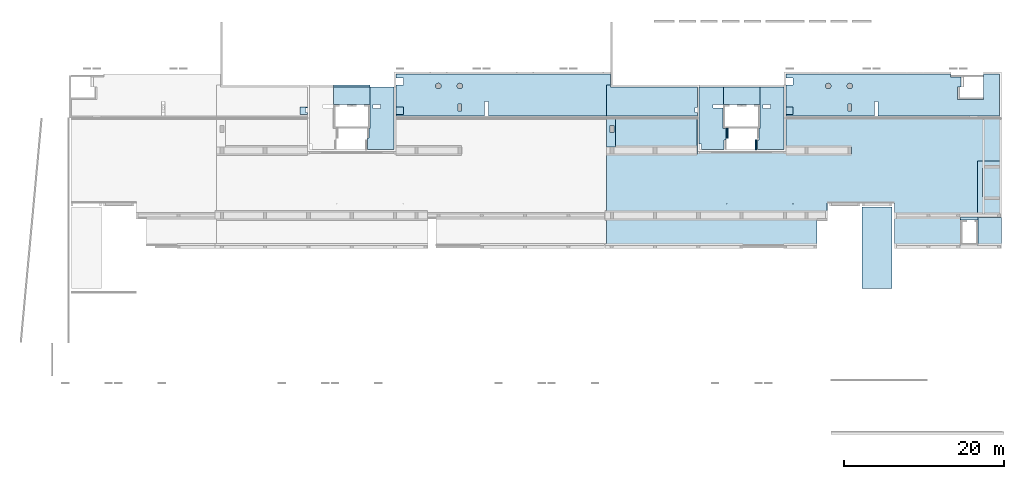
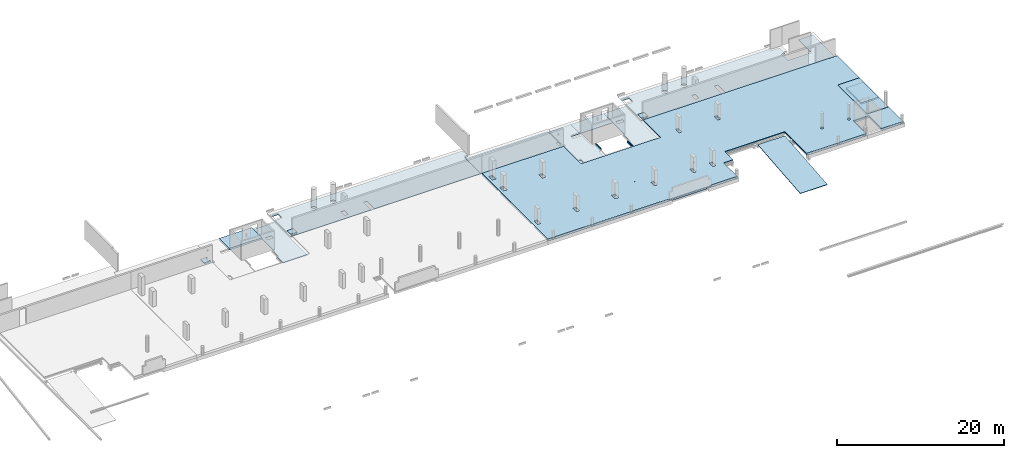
# One storey, part 5 of 10: 25 slabs, 27 openings.
"""IFC2X3 building model written with IfcOpenShell, lengths in millimetres."""

import ifcopenshell
import ifcopenshell.guid

model = None  # the IFC model being written
_history = None  # IfcOwnerHistory: only IFC2X3 demands one
_inside = {}  # id of a spatial element -> (the spatial element, [elements in it])
_under = {}  # id of a project, library or spatial element -> (it, [spatial elements below it])
_declared = {}  # id of a project -> (the project, [libraries it declares])
_typed = {}  # id of a type object -> (the type object, [elements of that type])
_made_of = {}  # id of a material, layer set ... -> (it, [elements and type objects made of it])


def new_model(schema):
    """Start an empty IFC model of exactly this schema.

    Asked for "IFC4X3", IfcOpenShell would pick the latest addendum, in which some entities
    have other attributes; the version numbers below select the first issue.
    IFC2X3 requires an IfcOwnerHistory on every rooted entity: one is made here for all.
    """
    global model, _history
    if schema == "IFC4X3":
        model = ifcopenshell.file(schema_version=(4, 3, 0, 0))
    else:
        model = ifcopenshell.file(schema=schema)
    _inside.clear()
    _under.clear()
    _declared.clear()
    _typed.clear()
    _made_of.clear()
    _history = None
    if model.schema == "IFC2X3":
        org = make("IfcOrganization", Name="unknown")
        user = make(
            "IfcPersonAndOrganization",
            ThePerson=make("IfcPerson", FamilyName="unknown"),
            TheOrganization=org,
        )
        app = make(
            "IfcApplication",
            ApplicationDeveloper=org,
            Version="unknown",
            ApplicationFullName="unknown",
            ApplicationIdentifier="unknown",
        )
        _history = make(
            "IfcOwnerHistory",
            OwningUser=user,
            OwningApplication=app,
            ChangeAction="ADDED",
            CreationDate=0,
        )
    return model


def make(cls, **values):
    """One entity of the class cls with the attributes given. An attribute that is None is left unset."""
    return model.create_entity(
        cls, **{name: value for name, value in values.items() if value is not None}
    )


def entity(cls, *values):
    """Any entity or typed value of the class cls, its attributes in the order of the schema. None: left unset."""
    e = model.create_entity(cls)
    for i, value in enumerate(values):
        if value is not None:
            e[i] = value
    return e


def rooted(cls, **values):
    """An entity with a GlobalId (a new one), such as an element, a storey or a relation."""
    return make(cls, GlobalId=ifcopenshell.guid.new(), OwnerHistory=_history, **values)


def si_unit(unit_type, name, prefix=None):
    """IfcSIUnit, for example si_unit("LENGTHUNIT", "METRE", prefix="MILLI")."""
    return make("IfcSIUnit", UnitType=unit_type, Prefix=prefix, Name=name)


def converted_unit(unit_type, name, factor, base, dimensions=None, offset=None):
    """IfcConversionBasedUnit, such as the inch: factor (a typed value) times the base unit."""
    return make(
        "IfcConversionBasedUnit"
        if offset is None
        else "IfcConversionBasedUnitWithOffset",
        ConversionOffset=offset,
        Dimensions=None
        if dimensions is None
        else entity("IfcDimensionalExponents", *dimensions),
        UnitType=unit_type,
        Name=name,
        ConversionFactor=make(
            "IfcMeasureWithUnit", ValueComponent=factor, UnitComponent=base
        ),
    )


def derived_unit(unit_type, elements):
    """IfcDerivedUnit: a product of units, each with its exponent."""
    return make(
        "IfcDerivedUnit",
        Elements=[
            make("IfcDerivedUnitElement", Unit=unit, Exponent=power)
            for unit, power in elements
        ],
        UnitType=unit_type,
    )


def assignment(units):
    """IfcUnitAssignment: the units of a project."""
    return None if units is None else make("IfcUnitAssignment", Units=units)


def point(xyz):
    """IfcCartesianPoint."""
    return None if xyz is None else make("IfcCartesianPoint", Coordinates=xyz)


def direction(xyz):
    """IfcDirection."""
    return None if xyz is None else make("IfcDirection", DirectionRatios=xyz)


def frame(location, z_axis=None, x_axis=None):
    """IfcAxis2Placement3D, a coordinate frame: its origin and axes. An axis left out is left unset."""
    return make(
        "IfcAxis2Placement3D",
        Location=point(location),
        Axis=direction(z_axis),
        RefDirection=direction(x_axis),
    )


def frame_2d(location, x_axis=None):
    """IfcAxis2Placement2D, a coordinate frame in the plane: its origin and x axis."""
    return make(
        "IfcAxis2Placement2D", Location=point(location), RefDirection=direction(x_axis)
    )


def origin():
    """The frame at (0, 0, 0) with its axes left unset."""
    return frame((0.0, 0.0, 0.0))


def origin_2d_with_axis():
    """The frame at (0, 0) in the plane with the x axis (1, 0) written out."""
    return frame_2d((0.0, 0.0), x_axis=(1.0, 0.0))


def place(relative_to, where):
    """IfcLocalPlacement: puts the frame where relative to a parent placement (None: the world)."""
    return make(
        "IfcLocalPlacement", PlacementRelTo=relative_to, RelativePlacement=where
    )


def context(
    kind, dimensions, precision=None, world=None, true_north=None, identifier=None
):
    """IfcGeometricRepresentationContext, for example the 3D "Model" context."""
    return make(
        "IfcGeometricRepresentationContext",
        ContextIdentifier=identifier,
        ContextType=kind,
        CoordinateSpaceDimension=dimensions,
        Precision=precision,
        WorldCoordinateSystem=world,
        TrueNorth=true_north,
    )


def subcontext(parent, identifier, kind, view, scale=None):
    """IfcGeometricRepresentationSubContext, for example "Body" below "Model"."""
    return make(
        "IfcGeometricRepresentationSubContext",
        ContextIdentifier=identifier,
        ContextType=kind,
        ParentContext=parent,
        TargetScale=scale,
        TargetView=view,
    )


def project(units=None, contexts=None):
    """IfcProject with its units and contexts."""
    return rooted(
        "IfcProject",
        Name="project",
        RepresentationContexts=contexts,
        UnitsInContext=assignment(units),
    )


def spatial(cls, under=None, at=None, **own):
    """A site, building, storey or space (cls), placed at a placement, below another one or the project."""
    s = rooted(cls, ObjectPlacement=at, **own)
    if under is not None:
        _under.setdefault(under.id(), (under, []))[1].append(s)
    return s


def polyline(points):
    """IfcPolyline through the points."""
    return make("IfcPolyline", Points=[point(p) for p in points])


def profile(cls, at=None, kind="AREA", **sizes):
    """A parametric profile (cls). Its sizes go by their IFC names, for example OverallWidth=200.0."""
    return make(cls, ProfileType=kind, Position=at, **sizes)


def rectangle(**sizes):
    """IfcRectangleProfileDef."""
    return profile("IfcRectangleProfileDef", **sizes)


def circle(**sizes):
    """IfcCircleProfileDef."""
    return profile("IfcCircleProfileDef", **sizes)


def outline(outer, holes=None, kind="AREA"):
    """IfcArbitraryClosedProfileDef: a profile drawn as a closed curve; with holes, ...WithVoids."""
    if holes is None:
        return make("IfcArbitraryClosedProfileDef", ProfileType=kind, OuterCurve=outer)
    return make(
        "IfcArbitraryProfileDefWithVoids",
        ProfileType=kind,
        OuterCurve=outer,
        InnerCurves=holes,
    )


def extrude(swept, where, along, depth):
    """IfcExtrudedAreaSolid: the profile swept, set in the frame where, extruded along a direction by depth."""
    return make(
        "IfcExtrudedAreaSolid",
        SweptArea=swept,
        Position=where,
        ExtrudedDirection=direction(along),
        Depth=depth,
    )


def clip(a, b, op="DIFFERENCE"):
    """IfcBooleanClippingResult: the solid a cut by the half space b."""
    return make(
        "IfcBooleanClippingResult", Operator=op, FirstOperand=a, SecondOperand=b
    )


def halfspace(plane, agree):
    """IfcHalfSpaceSolid: all space on one side of the plane z = 0 of the frame plane."""
    return make(
        "IfcHalfSpaceSolid",
        BaseSurface=make("IfcPlane", Position=plane),
        AgreementFlag=agree,
    )


def shape(context_of_items, identifier, shape_type, items):
    """IfcShapeRepresentation: the items that make up one representation, for example the "Body"."""
    return make(
        "IfcShapeRepresentation",
        ContextOfItems=context_of_items,
        RepresentationIdentifier=identifier,
        RepresentationType=shape_type,
        Items=items,
    )


def material(Name=None, Category=None):
    """IfcMaterial."""
    return make("IfcMaterial", Name=Name, Category=Category)


def layer(
    of_material, thickness, ventilated=None, Name=None, Category=None, Priority=None
):
    """IfcMaterialLayer: one layer of a wall or slab, of a material (None: an air gap)."""
    return make(
        "IfcMaterialLayer",
        Material=of_material,
        LayerThickness=thickness,
        IsVentilated=ventilated,
        Name=Name,
        Category=Category,
        Priority=Priority,
    )


def layer_set(layers, Name=None):
    """IfcMaterialLayerSet."""
    return make("IfcMaterialLayerSet", MaterialLayers=layers, LayerSetName=Name)


def layer_usage(for_layer_set, set_direction, sense, offset, extent=None):
    """IfcMaterialLayerSetUsage: how a layer set lies in its element."""
    return make(
        "IfcMaterialLayerSetUsage",
        ForLayerSet=for_layer_set,
        LayerSetDirection=set_direction,
        DirectionSense=sense,
        OffsetFromReferenceLine=offset,
        ReferenceExtent=extent,
    )


def made_of(thing, what):
    """Note that an element or type object is made of a material, layer set ...; save() writes the relation."""
    if what is not None:
        _made_of.setdefault(what.id(), (what, []))[1].append(thing)
    return thing


def element(
    cls,
    number,
    at=None,
    inside=None,
    cuts=None,
    type_object=None,
    material=None,
    context=None,
    identifier="Body",
    shape_type=None,
    held_by="IfcProductDefinitionShape",
    body=None,
    shapes=None,
    **own,
):
    """One element of the class cls, such as IfcWall. Its Tag is "e" and its number.

    at: its placement. inside: the storey or other place that contains it. cuts: it is an
    opening in that element (IfcRelVoidsElement). A single representation is given by context,
    identifier, shape_type and body (its items); several are given by shapes. held_by: the class
    of the entity that holds the representations. save() writes the other relations.
    """
    e = rooted(cls, Tag="e%d" % number, ObjectPlacement=at, **own)
    if body is not None:
        shapes = [shape(context, identifier, shape_type, body)]
    if shapes is not None:
        e.Representation = make(held_by, Representations=shapes)
    if inside is not None:
        _inside.setdefault(inside.id(), (inside, []))[1].append(e)
    if cuts is not None:
        rooted(
            "IfcRelVoidsElement", RelatingBuildingElement=cuts, RelatedOpeningElement=e
        )
    if type_object is not None:
        _typed.setdefault(type_object.id(), (type_object, []))[1].append(e)
    return made_of(e, material)


def aggregate(whole, parts):
    """IfcRelAggregates: a whole, such as a stair, and the parts it consists of."""
    return rooted("IfcRelAggregates", RelatingObject=whole, RelatedObjects=parts)


def save(model, path):
    """Write the relations noted so far, then the file.

    IfcRelAggregates (storeys below a building ...), IfcRelContainedInSpatialStructure (elements
    in a storey), IfcRelDefinesByType, IfcRelAssociatesMaterial and IfcRelDeclares: one each for
    every whole, place, type object, material and project.
    """
    for whole, parts in _under.values():
        aggregate(whole, parts)
    for where, things in _inside.values():
        rooted(
            "IfcRelContainedInSpatialStructure",
            RelatedElements=things,
            RelatingStructure=where,
        )
    for kind, things in _typed.values():
        rooted("IfcRelDefinesByType", RelatedObjects=things, RelatingType=kind)
    for what, things in _made_of.values():
        rooted("IfcRelAssociatesMaterial", RelatedObjects=things, RelatingMaterial=what)
    for by, libraries in _declared.values():
        rooted("IfcRelDeclares", RelatingContext=by, RelatedDefinitions=libraries)
    model.write(path)


model = new_model("IFC2X3")

# Units and contexts
model_context = context("Model", 3, precision=0.01, world=origin(), true_north=direction((6.12303176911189e-17, 1.0)))
body_context = subcontext(model_context, "Body", "Model", "MODEL_VIEW")
ifc_project = project(units=[si_unit("LENGTHUNIT", "METRE", prefix="MILLI"), si_unit("AREAUNIT", "SQUARE_METRE"), si_unit("VOLUMEUNIT", "CUBIC_METRE"), converted_unit("PLANEANGLEUNIT", "DEGREE", entity("IfcRatioMeasure", 0.0174532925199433), si_unit("PLANEANGLEUNIT", "RADIAN"), dimensions=[0, 0, 0, 0, 0, 0, 0]), si_unit("MASSUNIT", "GRAM", prefix="KILO"), derived_unit("MASSDENSITYUNIT", [(si_unit("MASSUNIT", "GRAM", prefix="KILO"), 1), (si_unit("LENGTHUNIT", "METRE"), -3)]), si_unit("TIMEUNIT", "SECOND"), si_unit("FREQUENCYUNIT", "HERTZ"), si_unit("THERMODYNAMICTEMPERATUREUNIT", "DEGREE_CELSIUS"), derived_unit("THERMALTRANSMITTANCEUNIT", [(si_unit("MASSUNIT", "GRAM", prefix="KILO"), 1), (si_unit("THERMODYNAMICTEMPERATUREUNIT", "KELVIN"), -1), (si_unit("TIMEUNIT", "SECOND"), -3)]), derived_unit("VOLUMETRICFLOWRATEUNIT", [(si_unit("LENGTHUNIT", "METRE"), 3), (si_unit("TIMEUNIT", "SECOND"), -1)]), si_unit("ELECTRICCURRENTUNIT", "AMPERE"), si_unit("ELECTRICVOLTAGEUNIT", "VOLT"), si_unit("POWERUNIT", "WATT"), si_unit("FORCEUNIT", "NEWTON", prefix="KILO"), si_unit("ILLUMINANCEUNIT", "LUX"), si_unit("LUMINOUSFLUXUNIT", "LUMEN"), si_unit("LUMINOUSINTENSITYUNIT", "CANDELA"), derived_unit("USERDEFINED", [(si_unit("MASSUNIT", "GRAM", prefix="KILO"), -1), (si_unit("LENGTHUNIT", "METRE"), -2), (si_unit("TIMEUNIT", "SECOND"), 3), (si_unit("LUMINOUSFLUXUNIT", "LUMEN"), 1)]), derived_unit("LINEARVELOCITYUNIT", [(si_unit("LENGTHUNIT", "METRE"), 1), (si_unit("TIMEUNIT", "SECOND"), -1)]), si_unit("PRESSUREUNIT", "PASCAL"), derived_unit("USERDEFINED", [(si_unit("LENGTHUNIT", "METRE"), -2), (si_unit("MASSUNIT", "GRAM", prefix="KILO"), 1), (si_unit("TIMEUNIT", "SECOND"), -2)])], contexts=[model_context])

# Site, building, storey
site_placement = place(None, origin())
site = spatial("IfcSite", under=ifc_project, at=site_placement, Name="Default", CompositionType="ELEMENT")
building_placement = place(site_placement, origin())
building = spatial("IfcBuilding", under=site, at=building_placement, Name="niet gebruiken", CompositionType="ELEMENT")
storey_placement = place(building_placement, frame((0.0, 0.0, 6610.0)))
storey = spatial("IfcBuildingStorey", under=building, at=storey_placement, Name="01c derde tussenverdieping", CompositionType="ELEMENT", Elevation=6610.0)

# Slab
ifc_material_1 = material(Name="NLRS_f2_beton prefab")
ifc_layer_1 = layer(ifc_material_1, 255.0)
ifc_layer_set_1 = layer_set([ifc_layer_1], Name="Floor:NLRS_23.21_FL_kanaalplaat d=255_gen")
ifc_layer_usage_1 = layer_usage(ifc_layer_set_1, "AXIS3", "POSITIVE", 0.0)
slab_1_placement = place(storey_placement, origin())
element("IfcSlab", 1, at=slab_1_placement, inside=storey, material=ifc_layer_usage_1, Name="Floor:NLRS_23.21_FL_kanaalplaat d=255_gen", ObjectType="Floor:NLRS_23.21_FL_kanaalplaat d=255_gen", PredefinedType="FLOOR", context=body_context, shape_type="SweptSolid", body=[
    extrude(outline(polyline([(-791.250000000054, -16323.7500000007), (2448.74999999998, -16323.7500000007), (2448.74999999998, 9911.25000000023), (-791.250000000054, 9911.25000000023), (-791.250000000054, 5686.24999999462), (-866.249999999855, 5686.24999999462), (-866.249999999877, 726.250000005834), (-791.250000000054, 726.250000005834), (-791.250000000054, -16323.7500000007)])), frame((91293.7499999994, 25987.25, -70.0), z_axis=(0.0, 0.0, -1.0), x_axis=(0.0, 1.0, 0.0)), (0.0, 0.0, 1.0), 255.000000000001),
])

# Slab, openings
ifc_material_2 = material(Name="NLRS_f2_beton ihwg")
ifc_layer_2 = layer(ifc_material_2, 70.0)
ifc_layer_set_2 = layer_set([ifc_layer_2], Name="Floor:NLRS_23.21_FL_druklaag d=70 - gevlinderd en ingestrooid_gen")
ifc_layer_usage_2 = layer_usage(ifc_layer_set_2, "AXIS3", "POSITIVE", 0.0)
slab_2_placement = place(storey_placement, frame((74970.0, 25101.0, -70.0)))
slab_2 = element("IfcSlab", 2, at=slab_2_placement, inside=storey, material=ifc_layer_usage_2, Name="Floor:NLRS_23.21_FL_druklaag d=70 - gevlinderd en ingestrooid_gen", ObjectType="Floor:NLRS_23.21_FL_druklaag d=70 - gevlinderd en ingestrooid_gen", PredefinedType="FLOOR", context=body_context, shape_type="SweptSolid", body=[
    extrude(outline(polyline([(24615.0, -7905.0), (24615.0, 7980.0), (13310.0, 7980.0), (13310.0, 3775.0), (2260.0, 3775.0), (2260.0, 7980.0), (-24615.0, 7980.0), (-24615.0, 2624.0), (-21615.0, 2624.0), (-21615.0, -4400.0), (-24615.0, -4400.0), (-24615.0, -7905.0), (-21640.0, -7905.0), (-21640.0, -4775.0), (-19490.0, -4775.0), (-19490.0, -7905.0), (-11240.0, -7905.0), (-11240.0, -2655.0), (-2890.0, -2655.0), (-2890.0, -4625.0), (-1620.0, -4625.0), (-1620.0, -7905.0), (2185.0, -7905.0), (2185.0, -7980.0), (7985.0, -7980.0), (7985.0, -7905.0), (24615.0, -7905.0)])), frame((24615.0, 7980.0, 70.0), z_axis=(0.0, 0.0, -1.0), x_axis=(-1.0, 0.0, 0.0)), (0.0, 0.0, 1.0), 70.0000000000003),
])
opening_1_placement = place(storey_placement, frame((74970.0, 25101.0, -70.0)))
element("IfcOpeningElement", 3, at=opening_1_placement, cuts=slab_2, ObjectType="Opening", context=body_context, shape_type="SweptSolid", body=[
    extrude(circle(Radius=37.5, at=frame_2d((1385.0, -2725.0), x_axis=(1.0, 0.0))), frame((24615.0, 7980.0, 70.0), z_axis=(0.0, 0.0, -1.0), x_axis=(-1.0, 0.0, 0.0)), (0.0, 0.0, 1.0), 70.0000000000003),
])
opening_2_placement = place(storey_placement, frame((74970.0, 25101.0, -70.0)))
element("IfcOpeningElement", 4, at=opening_2_placement, cuts=slab_2, ObjectType="Opening", context=body_context, shape_type="SweptSolid", body=[
    extrude(circle(Radius=37.5, at=frame_2d((9635.0, -2725.0), x_axis=(1.0, 0.0))), frame((24615.0, 7980.0, 70.0), z_axis=(0.0, 0.0, -1.0), x_axis=(-1.0, 0.0, 0.0)), (0.0, 0.0, 1.0), 70.0000000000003),
])
opening_3_placement = place(slab_2_placement, frame((655.0, 14555.0, 70.0)))
element("IfcOpeningElement", 5, at=opening_3_placement, cuts=slab_2, Name="Floor:NLRS_23.21_FL_druklaag d=70 - gevlinderd en ingestrooid_gen:2", ObjectType="Opening", context=body_context, shape_type="SweptSolid", body=[
    extrude(rectangle(XDim=499.999999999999, YDim=849.999999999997, at=origin_2d_with_axis()), frame((0.0, 0.0, 0.0), z_axis=(0.0, 0.0, -1.0), x_axis=(-1.0, 0.0, 0.0)), (0.0, 0.0, 1.0), 70.0000000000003),
])
opening_4_placement = place(slab_2_placement, frame((655.0, 11880.0, 70.0)))
element("IfcOpeningElement", 6, at=opening_4_placement, cuts=slab_2, Name="Floor:NLRS_23.21_FL_druklaag d=70 - gevlinderd en ingestrooid_gen:3", ObjectType="Opening", context=body_context, shape_type="SweptSolid", body=[
    extrude(rectangle(XDim=499.999999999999, YDim=849.999999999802, at=origin_2d_with_axis()), frame((0.0, 0.0, 0.0), z_axis=(0.0, 0.0, -1.0), x_axis=(-1.0, 0.0, 0.0)), (0.0, 0.0, 1.0), 70.0000000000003),
])
opening_5_placement = place(slab_2_placement, frame((6030.0, 11880.0, 70.0)))
element("IfcOpeningElement", 7, at=opening_5_placement, cuts=slab_2, Name="Floor:NLRS_23.21_FL_druklaag d=70 - gevlinderd en ingestrooid_gen:4", ObjectType="Opening", context=body_context, shape_type="SweptSolid", body=[
    extrude(rectangle(XDim=850.000000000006, YDim=499.99999999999, at=origin_2d_with_axis()), frame((0.0, 0.0, 0.0), z_axis=(0.0, 0.0, -1.0), x_axis=(0.0, -1.0, 0.0)), (0.0, 0.0, 1.0), 70.0000000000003),
])
opening_6_placement = place(slab_2_placement, frame((30305.0, 11880.0, 70.0)))
element("IfcOpeningElement", 8, at=opening_6_placement, cuts=slab_2, Name="Floor:NLRS_23.21_FL_druklaag d=70 - gevlinderd en ingestrooid_gen:5", ObjectType="Opening", context=body_context, shape_type="SweptSolid", body=[
    extrude(rectangle(XDim=399.999999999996, YDim=849.999999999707, at=origin_2d_with_axis()), frame((0.0, 0.0, 0.0), z_axis=(0.0, 0.0, -1.0), x_axis=(-1.0, 0.0, 0.0)), (0.0, 0.0, 1.0), 70.0000000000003),
])
opening_7_placement = place(slab_2_placement, frame((24905.0, 11880.0, 70.0)))
element("IfcOpeningElement", 9, at=opening_7_placement, cuts=slab_2, Name="Floor:NLRS_23.21_FL_druklaag d=70 - gevlinderd en ingestrooid_gen:6", ObjectType="Opening", context=body_context, shape_type="SweptSolid", body=[
    extrude(rectangle(XDim=850.000000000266, YDim=400.000000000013, at=origin_2d_with_axis()), frame((0.0, 0.0, 0.0), z_axis=(0.0, 0.0, -1.0), x_axis=(0.0, -1.0, 0.0)), (0.0, 0.0, 1.0), 70.0000000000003),
])
opening_8_placement = place(slab_2_placement, frame((43830.0, 3780.0, 70.0)))
element("IfcOpeningElement", 10, at=opening_8_placement, cuts=slab_2, Name="Floor:NLRS_23.21_FL_druklaag d=70 - gevlinderd en ingestrooid_gen:7", ObjectType="Opening", context=body_context, shape_type="SweptSolid", body=[
    extrude(circle(Radius=200.0, at=origin_2d_with_axis()), frame((0.0, 0.0, 0.0), z_axis=(0.0, 0.0, -1.0), x_axis=(1.0, 0.0, 0.0)), (0.0, 0.0, 1.0), 70.0000000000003),
])
opening_9_placement = place(slab_2_placement, frame((40105.0, 3780.0, 70.0)))
element("IfcOpeningElement", 11, at=opening_9_placement, cuts=slab_2, Name="Floor:NLRS_23.21_FL_druklaag d=70 - gevlinderd en ingestrooid_gen:8", ObjectType="Opening", context=body_context, shape_type="SweptSolid", body=[
    extrude(circle(Radius=200.0, at=origin_2d_with_axis()), frame((0.0, 0.0, 0.0), z_axis=(0.0, 0.0, -1.0), x_axis=(1.0, 0.0, 0.0)), (0.0, 0.0, 1.0), 70.0000000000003),
])
opening_10_placement = place(slab_2_placement, frame((24905.0, 3780.0, 70.0)))
element("IfcOpeningElement", 12, at=opening_10_placement, cuts=slab_2, Name="Floor:NLRS_23.21_FL_druklaag d=70 - gevlinderd en ingestrooid_gen:9", ObjectType="Opening", context=body_context, shape_type="SweptSolid", body=[
    extrude(rectangle(XDim=850.00000000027, YDim=400.000000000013, at=origin_2d_with_axis()), frame((0.0, 0.0, 0.0), z_axis=(0.0, 0.0, -1.0), x_axis=(0.0, -1.0, 0.0)), (0.0, 0.0, 1.0), 70.0000000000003),
])
opening_11_placement = place(slab_2_placement, frame((22230.0, 3780.0, 70.0)))
element("IfcOpeningElement", 13, at=opening_11_placement, cuts=slab_2, Name="Floor:NLRS_23.21_FL_druklaag d=70 - gevlinderd en ingestrooid_gen:10", ObjectType="Opening", context=body_context, shape_type="SweptSolid", body=[
    extrude(rectangle(XDim=850.00000000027, YDim=400.000000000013, at=origin_2d_with_axis()), frame((0.0, 0.0, 0.0), z_axis=(0.0, 0.0, 1.0), x_axis=(0.0, -1.0, 0.0)), (0.0, 0.0, -1.0), 70.0000000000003),
])
opening_12_placement = place(slab_2_placement, frame((16830.0, 3780.0, 70.0)))
element("IfcOpeningElement", 14, at=opening_12_placement, cuts=slab_2, Name="Floor:NLRS_23.21_FL_druklaag d=70 - gevlinderd en ingestrooid_gen:11", ObjectType="Opening", context=body_context, shape_type="SweptSolid", body=[
    extrude(rectangle(XDim=850.000000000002, YDim=400.000000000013, at=origin_2d_with_axis()), frame((0.0, 0.0, 0.0), z_axis=(0.0, 0.0, -1.0), x_axis=(0.0, -1.0, 0.0)), (0.0, 0.0, 1.0), 70.0000000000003),
])
opening_13_placement = place(slab_2_placement, frame((11430.0, 3780.0, 70.0)))
element("IfcOpeningElement", 15, at=opening_13_placement, cuts=slab_2, Name="Floor:NLRS_23.21_FL_druklaag d=70 - gevlinderd en ingestrooid_gen:12", ObjectType="Opening", context=body_context, shape_type="SweptSolid", body=[
    extrude(rectangle(XDim=850.000000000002, YDim=499.99999999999, at=origin_2d_with_axis()), frame((0.0, 0.0, 0.0), z_axis=(0.0, 0.0, -1.0), x_axis=(0.0, -1.0, 0.0)), (0.0, 0.0, 1.0), 70.0000000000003),
])
opening_14_placement = place(slab_2_placement, frame((6030.0, 3780.0, 70.0)))
element("IfcOpeningElement", 16, at=opening_14_placement, cuts=slab_2, Name="Floor:NLRS_23.21_FL_druklaag d=70 - gevlinderd en ingestrooid_gen:13", ObjectType="Opening", context=body_context, shape_type="SweptSolid", body=[
    extrude(rectangle(XDim=849.999999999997, YDim=400.000000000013, at=origin_2d_with_axis()), frame((0.0, 0.0, 0.0), z_axis=(0.0, 0.0, -1.0), x_axis=(0.0, -1.0, 0.0)), (0.0, 0.0, 1.0), 70.0000000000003),
])
opening_15_placement = place(slab_2_placement, frame((655.0, 3780.0, 70.0)))
element("IfcOpeningElement", 17, at=opening_15_placement, cuts=slab_2, Name="Floor:NLRS_23.21_FL_druklaag d=70 - gevlinderd en ingestrooid_gen:14", ObjectType="Opening", context=body_context, shape_type="SweptSolid", body=[
    extrude(rectangle(XDim=850.000000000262, YDim=399.999999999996, at=origin_2d_with_axis()), frame((0.0, 0.0, 0.0), z_axis=(0.0, 0.0, -1.0), x_axis=(0.0, -1.0, 0.0)), (0.0, 0.0, 1.0), 70.0000000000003),
])

# Slab
ifc_layer_usage_3 = layer_usage(ifc_layer_set_1, "AXIS3", "POSITIVE", 0.0)
slab_3_placement = place(storey_placement, frame((74970.0, 29101.0, -325.0)))
element("IfcSlab", 18, at=slab_3_placement, inside=storey, material=ifc_layer_usage_3, Name="Floor:NLRS_23.21_FL_kanaalplaat d=255_gen", ObjectType="Floor:NLRS_23.21_FL_kanaalplaat d=255_gen", PredefinedType="FLOOR", context=body_context, shape_type="SweptSolid", body=[
    extrude(rectangle(XDim=10200.0000000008, YDim=3615.00000000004, at=frame_2d((18430.0, 4162.49999999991), x_axis=(-1.0, 0.0))), frame((24615.0, 5970.0, 255.0), z_axis=(0.0, 0.0, -1.0), x_axis=(-1.0, 0.0, 0.0)), (0.0, 0.0, 1.0), 255.000000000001),
])

# Slab, openings
slab_4_placement = place(storey_placement, frame((74970.0, 29101.0, -325.0)))
slab_4 = element("IfcSlab", 19, at=slab_4_placement, inside=storey, material=ifc_layer_usage_3, Name="Floor:NLRS_23.21_FL_kanaalplaat d=255_gen:2", ObjectType="Floor:NLRS_23.21_FL_kanaalplaat d=255_gen", PredefinedType="FLOOR", context=body_context, shape_type="SweptSolid", body=[
    extrude(outline(polyline([(-2870.0, -5745.0), (24615.0, -5745.0), (24615.0, 1465.0), (13310.0, 1465.0), (13310.0, 1765.0), (2260.0, 1765.0), (2260.0, 1465.0), (-5935.0, 1465.0), (-5935.0, 2355.0), (2240.0, 2355.0), (2240.0, 5970.0), (-24615.0, 5970.0), (-24615.0, 34.0), (-22215.0, 34.0), (-22215.0, -4176.0), (-24615.0, -4176.0), (-24615.0, -5970.0), (-11260.0, -5970.0), (-11260.0, -4615.0), (-2870.0, -4615.0), (-2870.0, -5745.0)])), frame((24615.0, 5970.0, 255.0), z_axis=(0.0, 0.0, -1.0), x_axis=(-1.0, 0.0, 0.0)), (0.0, 0.0, 1.0), 255.000000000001),
])
opening_16_placement = place(storey_placement, frame((74970.0, 29101.0, -325.0)))
element("IfcOpeningElement", 20, at=opening_16_placement, cuts=slab_4, ObjectType="Opening", context=body_context, shape_type="SweptSolid", body=[
    extrude(circle(Radius=37.5, at=frame_2d((1385.0, -4715.0), x_axis=(1.0, 0.0))), frame((24615.0, 5970.0, 255.0), z_axis=(0.0, 0.0, -1.0), x_axis=(-1.0, 0.0, 0.0)), (0.0, 0.0, 1.0), 255.000000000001),
])
opening_17_placement = place(storey_placement, frame((74970.0, 29101.0, -325.0)))
element("IfcOpeningElement", 21, at=opening_17_placement, cuts=slab_4, ObjectType="Opening", context=body_context, shape_type="SweptSolid", body=[
    extrude(circle(Radius=37.5, at=frame_2d((9635.0, -4715.0), x_axis=(1.0, 0.0))), frame((24615.0, 5970.0, 255.0), z_axis=(0.0, 0.0, -1.0), x_axis=(-1.0, 0.0, 0.0)), (0.0, 0.0, 1.0), 255.000000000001),
])

# Slabs
ifc_layer_usage_4 = layer_usage(ifc_layer_set_1, "AXIS3", "POSITIVE", 0.0)
slab_5_placement = place(storey_placement, frame((110845.0, 25196.0, -325.0)))
element("IfcSlab", 22, at=slab_5_placement, inside=storey, material=ifc_layer_usage_4, Name="Floor:NLRS_23.21_FL_kanaalplaat d=255_gen", ObjectType="Floor:NLRS_23.21_FL_kanaalplaat d=255_gen", PredefinedType="FLOOR", context=body_context, shape_type="SweptSolid", body=[
    extrude(rectangle(XDim=3465.00000000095, YDim=8210.00000000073, at=frame_2d((2572.49999999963, 0.0), x_axis=(0.0, 1.0))), frame((6677.5, 1732.50000000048, 255.0), z_axis=(0.0, 0.0, -1.0), x_axis=(-1.0, 0.0, 0.0)), (0.0, 0.0, 1.0), 255.000000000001),
])
slab_6_placement = place(storey_placement, frame((110845.0, 25196.0, -325.0)))
element("IfcSlab", 23, at=slab_6_placement, inside=storey, material=ifc_layer_usage_4, Name="Floor:NLRS_23.21_FL_kanaalplaat d=255_gen:2", ObjectType="Floor:NLRS_23.21_FL_kanaalplaat d=255_gen", PredefinedType="FLOOR", context=body_context, shape_type="SweptSolid", body=[
    extrude(rectangle(XDim=3465.00000000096, YDim=2954.99999999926, at=frame_2d((-5200.0, 0.0), x_axis=(0.0, 1.0))), frame((6677.5, 1732.50000000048, 255.0), z_axis=(0.0, 0.0, -1.0), x_axis=(-1.0, 0.0, 0.0)), (0.0, 0.0, 1.0), 255.000000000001),
])
ifc_layer_3 = layer(ifc_material_2, 250.0)
ifc_layer_set_3 = layer_set([ifc_layer_3], Name="Floor:NLRS_23.21_FL_breedplaat d=70/250_schil apart_gen")
ifc_layer_usage_5 = layer_usage(ifc_layer_set_3, "AXIS3", "POSITIVE", 0.0)
slab_7_placement = place(storey_placement, frame((40924.9998491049, 42696.0, -340.0)))
element("IfcSlab", 24, at=slab_7_placement, inside=storey, material=ifc_layer_usage_5, Name="Floor:NLRS_23.21_FL_breedplaat d=70/250_schil apart_gen", ObjectType="Floor:NLRS_23.21_FL_breedplaat d=70/250_schil apart_gen", PredefinedType="FLOOR", context=body_context, shape_type="SweptSolid", body=[
    extrude(rectangle(XDim=4549.99999999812, YDim=2459.99999999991, at=frame_2d((0.0, 0.0), x_axis=(-1.0, 0.0))), frame((2275.0, 1230.0, 250.0), z_axis=(0.0, 0.0, -1.0), x_axis=(-1.0, 0.0, 0.0)), (0.0, 0.0, 1.0), 250.000000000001),
])
ifc_layer_4 = layer(ifc_material_2, 260.0)
ifc_layer_set_4 = layer_set([ifc_layer_4], Name="Floor:NLRS_23.21_FL_beton ihwg d=260_gen")
ifc_layer_usage_6 = layer_usage(ifc_layer_set_4, "AXIS3", "POSITIVE", 0.0)
slab_8_placement = place(storey_placement, origin())
element("IfcSlab", 25, at=slab_8_placement, inside=storey, material=ifc_layer_usage_6, Name="Floor:NLRS_23.21_FL_beton ihwg d=260_gen", ObjectType="Floor:NLRS_23.21_FL_beton ihwg d=260_gen", PredefinedType="FLOOR", context=body_context, shape_type="SweptSolid", body=[
    extrude(rectangle(XDim=374.999999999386, YDim=2190.0, at=frame_2d((-2.1600499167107e-12, -8.64019966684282e-12), x_axis=(1.0, 0.0))), frame((120150.0, 28493.5000000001, -70.0), z_axis=(0.0, 0.0, -1.0), x_axis=(0.0, 1.0, 0.0)), (0.0, 0.0, 1.0), 260.0),
])

# Slab, opening
ifc_layer_5 = layer(ifc_material_1, 70.0)
ifc_layer_set_5 = layer_set([ifc_layer_5], Name="Floor:NLRS_23.21_FL_breedplaatschil d=70_gen")
ifc_layer_usage_7 = layer_usage(ifc_layer_set_5, "AXIS3", "POSITIVE", 0.0)
slab_9_placement = place(storey_placement, frame((37905.0, 37086.0, -340.0)))
slab_9 = element("IfcSlab", 26, at=slab_9_placement, inside=storey, material=ifc_layer_usage_7, Name="Floor:NLRS_23.21_FL_breedplaatschil d=70_gen:2", ObjectType="Floor:NLRS_23.21_FL_breedplaatschil d=70_gen", PredefinedType="FLOOR", context=body_context, shape_type="SweptSolid", body=[
    extrude(outline(polyline([(-2274.99984910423, 1690.0), (-2274.99984910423, 3920.0), (-5295.0, 3920.0), (-5295.0, -3920.0), (-1949.99978323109, -3920.0), (-1949.99978323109, -2460.0), (-2170.0, -2460.0), (-2170.0, -1280.0), (-2294.99984910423, -1280.0), (-2294.99984910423, 1690.0), (-2274.99984910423, 1690.0)])), frame((5295.0, 3920.0, 70.0), z_axis=(0.0, 0.0, -1.0), x_axis=(-1.0, 0.0, 0.0)), (0.0, 0.0, 1.0), 70.0000000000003),
])
placement = place(storey_placement, frame((37905.0, 37086.0, -340.0)))
opening_18_placement = place(placement, frame((8425.0, 5390.0, 70.0)))
element("IfcOpeningElement", 27, at=opening_18_placement, cuts=slab_9, Name="Floor:NLRS_23.21_FL_breedplaatschil d=70_gen:2", ObjectType="Opening", context=body_context, shape_type="SweptSolid", body=[
    extrude(rectangle(XDim=900.000000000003, YDim=450.000000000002, at=origin_2d_with_axis()), frame((0.0, 0.0, 0.0), z_axis=(0.0, 0.0, -1.0), x_axis=(-1.0, 0.0, 0.0)), (0.0, 0.0, 1.0), 70.0000000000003),
])

# Slabs
ifc_layer_usage_8 = layer_usage(ifc_layer_set_5, "AXIS3", "POSITIVE", 0.0)
slab_10_placement = place(storey_placement, origin())
element("IfcSlab", 28, at=slab_10_placement, inside=storey, material=ifc_layer_usage_8, Name="Floor:NLRS_23.21_FL_breedplaatschil d=70_gen", ObjectType="Floor:NLRS_23.21_FL_breedplaatschil d=70_gen", PredefinedType="FLOOR", context=body_context, shape_type="SweptSolid", body=[
    extrude(rectangle(XDim=2209.99999999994, YDim=4549.99999999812, at=frame_2d((-4.32009983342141e-12, 0.0), x_axis=(1.0, 0.0))), frame((43199.9998491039, 43821.0, -270.0), z_axis=(0.0, 0.0, -1.0), x_axis=(0.0, 1.0, 0.0)), (0.0, 0.0, 1.0), 70.0000000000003),
])
ifc_layer_usage_9 = layer_usage(ifc_layer_set_5, "AXIS3", "POSITIVE", 0.0)
slab_11_placement = place(storey_placement, frame((86505.0, 37086.0, -340.0)))
element("IfcSlab", 29, at=slab_11_placement, inside=storey, material=ifc_layer_usage_9, Name="Floor:NLRS_23.21_FL_breedplaatschil d=70_gen", ObjectType="Floor:NLRS_23.21_FL_breedplaatschil d=70_gen", PredefinedType="FLOOR", context=body_context, shape_type="SweptSolid", body=[
    extrude(outline(polyline([(2295.00015089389, 1250.0), (2295.00015089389, -1280.0), (1950.0, -1280.0), (1950.0, -2700.0), (2170.00021676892, -2700.0), (2170.00021676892, -3920.0), (4975.0, -3920.0), (4975.0, -3180.0), (5295.0, -3180.0), (5295.0, 3920.0), (2275.0001508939, 3920.0), (2275.0001508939, 1690.0), (3572.50015089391, 1690.0), (3572.50015089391, 1250.0), (2295.00015089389, 1250.0)])), frame((5295.0, 3920.0, 70.0), z_axis=(0.0, 0.0, -1.0), x_axis=(-1.0, 0.0, 0.0)), (0.0, 0.0, 1.0), 70.0000000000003),
])

# Slab, opening
slab_12_placement = place(storey_placement, frame((86505.0, 37086.0, -340.0)))
slab_12 = element("IfcSlab", 30, at=slab_12_placement, inside=storey, material=ifc_layer_usage_9, Name="Floor:NLRS_23.21_FL_breedplaatschil d=70_gen:2", ObjectType="Floor:NLRS_23.21_FL_breedplaatschil d=70_gen", PredefinedType="FLOOR", context=body_context, shape_type="SweptSolid", body=[
    extrude(outline(polyline([(-2274.99984910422, 1690.0), (-2274.99984910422, 3920.0), (-5295.0, 3920.0), (-5295.0, -3920.0), (-1949.99978323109, -3920.0), (-1949.99978323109, -2700.0), (-2175.0, -2700.0), (-2175.0, -1280.0), (-2294.99984910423, -1280.0), (-2294.99984910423, 1690.0), (-2274.99984910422, 1690.0)])), frame((5295.0, 3920.0, 70.0), z_axis=(0.0, 0.0, -1.0), x_axis=(-1.0, 0.0, 0.0)), (0.0, 0.0, 1.0), 70.0000000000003),
])
opening_19_placement = place(slab_11_placement, frame((8425.0, 5390.0, 70.0)))
element("IfcOpeningElement", 31, at=opening_19_placement, cuts=slab_12, Name="Floor:NLRS_23.21_FL_breedplaatschil d=70_gen:2", ObjectType="Opening", context=body_context, shape_type="SweptSolid", body=[
    extrude(rectangle(XDim=900.000000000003, YDim=450.000000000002, at=origin_2d_with_axis()), frame((0.0, 0.0, 0.0), z_axis=(0.0, 0.0, -1.0), x_axis=(-1.0, 0.0, 0.0)), (0.0, 0.0, 1.0), 70.0000000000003),
])

# Slab
ifc_layer_usage_10 = layer_usage(ifc_layer_set_5, "AXIS3", "POSITIVE", 0.0)
slab_13_placement = place(storey_placement, origin())
element("IfcSlab", 32, at=slab_13_placement, inside=storey, material=ifc_layer_usage_10, Name="Floor:NLRS_23.21_FL_breedplaatschil d=70_gen", ObjectType="Floor:NLRS_23.21_FL_breedplaatschil d=70_gen", PredefinedType="FLOOR", context=body_context, shape_type="SweptSolid", body=[
    extrude(rectangle(XDim=2209.99999999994, YDim=4549.9999999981, at=frame_2d((-4.32009983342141e-12, 0.0), x_axis=(1.0, 0.0))), frame((91800.0, 43821.0, -270.0), z_axis=(0.0, 0.0, -1.0), x_axis=(0.0, 1.0, 0.0)), (0.0, 0.0, 1.0), 70.0000000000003),
])

# Slab, openings
ifc_layer_usage_11 = layer_usage(ifc_layer_set_5, "AXIS3", "POSITIVE", 0.0)
slab_14_placement = place(storey_placement, frame((48705.0, 41291.0, -250.0)))
slab_14 = element("IfcSlab", 33, at=slab_14_placement, inside=storey, material=ifc_layer_usage_11, Name="Floor:NLRS_23.21_FL_breedplaatschil d=70_gen", ObjectType="Floor:NLRS_23.21_FL_breedplaatschil d=70_gen", PredefinedType="FLOOR", context=body_context, shape_type="SweptSolid", body=[
    extrude(outline(polyline([(-13382.5000000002, 2612.4999999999), (-13382.5000000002, 1272.49999999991), (-12862.4999999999, 1272.49999999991), (-12862.4999999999, -2612.4999999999), (1862.49999999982, -2612.4999999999), (1862.49999999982, -792.499999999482), (2312.49999999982, -792.499999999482), (2312.49999999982, -2612.4999999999), (13382.5000000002, -2612.4999999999), (13382.5000000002, -2417.49999999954), (12462.4999999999, -2417.49999999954), (12462.4999999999, -1517.49999999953), (13382.5000000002, -1517.49999999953), (13382.5000000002, 1252.50000000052), (12462.5000000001, 1252.50000000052), (12462.5000000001, 2152.50000000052), (13382.5000000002, 2152.50000000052), (13382.5000000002, 2612.4999999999), (-13382.5000000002, 2612.4999999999)])), frame((13382.5000000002, 2612.4999999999, 70.0), z_axis=(0.0, 0.0, -1.0), x_axis=(-1.0, 0.0, 0.0)), (0.0, 0.0, 1.0), 70.0000000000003),
])
opening_20_placement = place(slab_14_placement, frame((7970.0, 1040.0, 70.0)))
element("IfcOpeningElement", 34, at=opening_20_placement, cuts=slab_14, Name="Floor:NLRS_23.21_FL_breedplaatschil d=70_gen:2", ObjectType="Opening", context=body_context, shape_type="SweptSolid", body=[
    extrude(rectangle(XDim=440.000000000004, YDim=890.000000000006, at=origin_2d_with_axis()), frame((0.0, 0.0, 0.0), z_axis=(0.0, 0.0, -1.0), x_axis=(1.0, 0.0, 0.0)), (0.0, 0.0, 1.0), 70.0000000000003),
])
opening_21_placement = place(slab_14_placement, frame((7970.0, 3740.0, 70.0)))
element("IfcOpeningElement", 35, at=opening_21_placement, cuts=slab_14, Name="Floor:NLRS_23.21_FL_breedplaatschil d=70_gen:3", ObjectType="Opening", context=body_context, shape_type="SweptSolid", body=[
    extrude(circle(Radius=345.0, at=origin_2d_with_axis()), frame((0.0, 0.0, 0.0), z_axis=(0.0, 0.0, -1.0), x_axis=(1.0, 0.0, 0.0)), (0.0, 0.0, 1.0), 70.0000000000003),
])
opening_22_placement = place(slab_14_placement, frame((5295.0, 3740.0, 70.0)))
element("IfcOpeningElement", 36, at=opening_22_placement, cuts=slab_14, Name="Floor:NLRS_23.21_FL_breedplaatschil d=70_gen:4", ObjectType="Opening", context=body_context, shape_type="SweptSolid", body=[
    extrude(circle(Radius=345.0, at=origin_2d_with_axis()), frame((0.0, 0.0, 0.0), z_axis=(0.0, 0.0, -1.0), x_axis=(1.0, 0.0, 0.0)), (0.0, 0.0, 1.0), 70.0000000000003),
])

# Slab, opening
ifc_layer_usage_12 = layer_usage(ifc_layer_set_5, "AXIS3", "POSITIVE", 0.0)
slab_15_placement = place(storey_placement, frame((74970.0, 41291.0, -250.0)))
slab_15 = element("IfcSlab", 37, at=slab_15_placement, inside=storey, material=ifc_layer_usage_12, Name="Floor:NLRS_23.21_FL_breedplaatschil d=70_gen", ObjectType="Floor:NLRS_23.21_FL_breedplaatschil d=70_gen", PredefinedType="FLOOR", context=body_context, shape_type="SweptSolid", body=[
    extrude(outline(polyline([(5662.49999999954, 1932.49999999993), (5162.49999999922, 1932.49999999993), (5162.49999999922, 1702.49999999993), (-5662.49999999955, 1702.49999999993), (-5662.49999999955, -1932.49999999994), (5662.49999999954, -1932.49999999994), (5662.49999999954, 1932.49999999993)])), frame((5662.49999999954, 1932.49999999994, 70.0), z_axis=(0.0, 0.0, -1.0), x_axis=(-1.0, 0.0, 0.0)), (0.0, 0.0, 1.0), 70.0000000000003),
])
opening_23_placement = place(slab_15_placement, origin())
element("IfcOpeningElement", 38, at=opening_23_placement, cuts=slab_15, ObjectType="Opening", context=body_context, shape_type="SweptSolid", body=[
    extrude(rectangle(XDim=259.999999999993, YDim=614.999999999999, at=origin_2d_with_axis()), frame((11175.0, 720.099707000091, 0.0), z_axis=(0.0, 0.0, 1.0), x_axis=(-1.0, 0.0, 0.0)), (0.0, 0.0, 1.0), 249.999999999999),
])

# Slab, openings
ifc_layer_usage_13 = layer_usage(ifc_layer_set_5, "AXIS3", "POSITIVE", 0.0)
slab_16_placement = place(storey_placement, frame((97305.0, 41291.0, -250.0)))
slab_16 = element("IfcSlab", 39, at=slab_16_placement, inside=storey, material=ifc_layer_usage_13, Name="Floor:NLRS_23.21_FL_breedplaatschil d=70_gen", ObjectType="Floor:NLRS_23.21_FL_breedplaatschil d=70_gen", PredefinedType="FLOOR", context=body_context, shape_type="SweptSolid", body=[
    extrude(outline(polyline([(-7222.49999999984, 2612.4999999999), (-7222.49999999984, 2252.50000000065), (-8537.50000000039, 2252.50000000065), (-8537.50000000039, 1022.50000000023), (-8072.49999999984, 1022.50000000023), (-8072.49999999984, -527.49999999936), (-11312.4999999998, -527.49999999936), (-11312.4999999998, 2612.4999999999), (-13332.5000000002, 2612.4999999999), (-13332.5000000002, -2612.4999999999), (1812.49999999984, -2612.4999999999), (1812.49999999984, -792.499999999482), (2262.49999999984, -792.499999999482), (2262.49999999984, -2612.4999999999), (13332.5000000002, -2612.4999999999), (13332.5000000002, -2417.49999999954), (12412.4999999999, -2417.49999999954), (12412.4999999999, -1517.49999999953), (13332.5000000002, -1517.49999999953), (13332.5000000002, 1252.50000000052), (12412.5000000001, 1252.50000000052), (12412.5000000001, 2152.50000000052), (13332.5000000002, 2152.50000000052), (13332.5000000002, 2612.4999999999), (-7222.49999999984, 2612.4999999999)])), frame((13332.5000000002, 2612.4999999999, 70.0), z_axis=(0.0, 0.0, -1.0), x_axis=(-1.0, 0.0, 0.0)), (0.0, 0.0, 1.0), 70.0000000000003),
])
opening_24_placement = place(slab_16_placement, frame((7970.0, 1040.0, 70.0)))
element("IfcOpeningElement", 40, at=opening_24_placement, cuts=slab_16, Name="Floor:NLRS_23.21_FL_breedplaatschil d=70_gen:2", ObjectType="Opening", context=body_context, shape_type="SweptSolid", body=[
    extrude(rectangle(XDim=440.000000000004, YDim=890.000000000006, at=origin_2d_with_axis()), frame((0.0, 0.0, 0.0), z_axis=(0.0, 0.0, -1.0), x_axis=(1.0, 0.0, 0.0)), (0.0, 0.0, 1.0), 70.0000000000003),
])
opening_25_placement = place(slab_16_placement, frame((7970.0, 3740.0, 70.0)))
element("IfcOpeningElement", 41, at=opening_25_placement, cuts=slab_16, Name="Floor:NLRS_23.21_FL_breedplaatschil d=70_gen:3", ObjectType="Opening", context=body_context, shape_type="SweptSolid", body=[
    extrude(circle(Radius=345.0, at=origin_2d_with_axis()), frame((0.0, 0.0, 0.0), z_axis=(0.0, 0.0, -1.0), x_axis=(1.0, 0.0, 0.0)), (0.0, 0.0, 1.0), 70.0000000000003),
])
opening_26_placement = place(slab_16_placement, frame((5295.0, 3740.0, 70.0)))
element("IfcOpeningElement", 42, at=opening_26_placement, cuts=slab_16, Name="Floor:NLRS_23.21_FL_breedplaatschil d=70_gen:4", ObjectType="Opening", context=body_context, shape_type="SweptSolid", body=[
    extrude(circle(Radius=345.0, at=origin_2d_with_axis()), frame((0.0, 0.0, 0.0), z_axis=(0.0, 0.0, -1.0), x_axis=(1.0, 0.0, 0.0)), (0.0, 0.0, 1.0), 70.0000000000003),
])

# Slabs
ifc_layer_usage_14 = layer_usage(ifc_layer_set_5, "AXIS3", "POSITIVE", 0.0)
slab_17_placement = place(storey_placement, origin())
element("IfcSlab", 43, at=slab_17_placement, inside=storey, material=ifc_layer_usage_14, Name="Floor:NLRS_23.21_FL_breedplaatschil d=70_gen", ObjectType="Floor:NLRS_23.21_FL_breedplaatschil d=70_gen", PredefinedType="FLOOR", context=body_context, shape_type="Clipping", body=[
    clip(clip(extrude(rectangle(XDim=10225.3974861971, YDim=3759.99999999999, at=frame_2d((0.0, -8.64019966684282e-12), x_axis=(1.0, 0.0))), frame((108675.0, 24876.0, -705.47714538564), z_axis=(0.0, 0.0941257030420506, -0.995560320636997), x_axis=(0.0, 0.995560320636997, 0.0941257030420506)), (-0.0941257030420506, 0.0, 0.995560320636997), 70.6257190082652), halfspace(frame((108675.0, 19425.4411853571, -1291.11486950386), z_axis=(0.0, 0.0941257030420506, -0.995560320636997), x_axis=(0.0, 0.995560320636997, 0.0941257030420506)), False)), halfspace(frame((108675.0, 19425.4411853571, -1220.80270604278), z_axis=(0.0, -0.0941257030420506, 0.995560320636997), x_axis=(0.0, -0.995560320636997, -0.0941257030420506)), False)),
])
ifc_layer_usage_15 = layer_usage(ifc_layer_set_3, "AXIS3", "POSITIVE", 0.0)
slab_18_placement = place(storey_placement, origin())
element("IfcSlab", 44, at=slab_18_placement, inside=storey, material=ifc_layer_usage_15, Name="Floor:NLRS_23.21_FL_breedplaat d=70/250_schil apart_gen", ObjectType="Floor:NLRS_23.21_FL_breedplaat d=70/250_schil apart_gen", PredefinedType="FLOOR", context=body_context, shape_type="SweptSolid", body=[
    extrude(outline(polyline([(-153.333333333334, -110.0), (96.6666666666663, -110.0), (96.6666666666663, 0.0), (56.6666666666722, 0.0), (56.6666666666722, 110.0), (-153.333333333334, 110.0), (-153.333333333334, -110.0)])), frame((90010.0, 38526.0, -186.666666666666), z_axis=(0.0, 1.0, 0.0), x_axis=(0.0, 0.0, 1.0)), (0.0, 0.0, 1.0), 1220.0),
])
ifc_layer_usage_16 = layer_usage(ifc_layer_set_3, "AXIS3", "POSITIVE", 0.0)
slab_19_placement = place(storey_placement, origin())
element("IfcSlab", 45, at=slab_19_placement, inside=storey, material=ifc_layer_usage_16, Name="Floor:NLRS_23.21_FL_breedplaat d=70/250_schil apart_gen", ObjectType="Floor:NLRS_23.21_FL_breedplaat d=70/250_schil apart_gen", PredefinedType="FLOOR", context=body_context, shape_type="SweptSolid", body=[
    extrude(outline(polyline([(-153.333333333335, -109.999855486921), (56.6666666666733, -109.999855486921), (56.6666666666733, -7.22566048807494e-05), (96.6666666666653, -7.22566048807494e-05), (96.6666666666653, 109.999927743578), (-153.333333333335, 109.999927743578), (-153.333333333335, -109.999855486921)])), frame((93590.0, 37106.0, -186.666666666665), z_axis=(0.0, 1.0, 0.0), x_axis=(0.0, 0.0, 1.0)), (0.0, 0.0, 1.0), 1220.0),
])

# Slab, opening
ifc_layer_6 = layer(ifc_material_2, 255.0)
ifc_layer_set_6 = layer_set([ifc_layer_6], Name="Floor:NLRS_23.21_FL_beton ihwg d=255_gen")
ifc_layer_usage_17 = layer_usage(ifc_layer_set_6, "AXIS3", "POSITIVE", 0.0)
slab_20_placement = place(storey_placement, frame((74970.0, 37426.0, -325.0)))
slab_20 = element("IfcSlab", 46, at=slab_20_placement, inside=storey, material=ifc_layer_usage_17, Name="Floor:NLRS_23.21_FL_beton ihwg d=255_gen", ObjectType="Floor:NLRS_23.21_FL_beton ihwg d=255_gen", PredefinedType="FLOOR", context=body_context, shape_type="SweptSolid", body=[
    extrude(rectangle(XDim=3634.99999999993, YDim=1085.00000000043, at=frame_2d((0.0, 0.0), x_axis=(0.0, -1.0))), frame((542.500000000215, 1817.49999999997, 255.0), z_axis=(0.0, 0.0, -1.0), x_axis=(-1.0, 0.0, 0.0)), (0.0, 0.0, 1.0), 255.000000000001),
])
opening_27_placement = place(slab_20_placement, frame((655.0, 2230.0, 255.0)))
element("IfcOpeningElement", 47, at=opening_27_placement, cuts=slab_20, Name="Floor:NLRS_23.21_FL_beton ihwg d=255_gen:2", ObjectType="Opening", context=body_context, shape_type="SweptSolid", body=[
    extrude(rectangle(XDim=849.999999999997, YDim=499.99999999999, at=origin_2d_with_axis()), frame((0.0, 0.0, 0.0), z_axis=(0.0, 0.0, -1.0), x_axis=(0.0, -1.0, 0.0)), (0.0, 0.0, 1.0), 255.000000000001),
])

# Slabs
ifc_layer_usage_18 = layer_usage(ifc_layer_set_1, "AXIS3", "POSITIVE", 0.0)
slab_21_placement = place(storey_placement, origin())
element("IfcSlab", 48, at=slab_21_placement, inside=storey, material=ifc_layer_usage_18, Name="Floor:NLRS_23.21_FL_kanaalplaat d=255_gen", ObjectType="Floor:NLRS_23.21_FL_kanaalplaat d=255_gen", PredefinedType="FLOOR", context=body_context, shape_type="SweptSolid", body=[
    extrude(rectangle(XDim=3640.0, YDim=2400.00000000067, at=frame_2d((-2.1600499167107e-12, 1.72803993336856e-11), x_axis=(1.0, 0.0))), frame((123000.0, 32985.0, -70.0), z_axis=(0.0, 0.0, -1.0), x_axis=(0.0, 1.0, 0.0)), (0.0, 0.0, 1.0), 255.000000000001),
])
ifc_layer_usage_19 = layer_usage(ifc_layer_set_2, "AXIS3", "POSITIVE", 0.0)
slab_22_placement = place(storey_placement, origin())
element("IfcSlab", 49, at=slab_22_placement, inside=storey, material=ifc_layer_usage_19, Name="Floor:NLRS_23.21_FL_druklaag d=70 - gevlinderd en ingestrooid_gen", ObjectType="Floor:NLRS_23.21_FL_druklaag d=70 - gevlinderd en ingestrooid_gen", PredefinedType="FLOOR", context=body_context, shape_type="SweptSolid", body=[
    extrude(rectangle(XDim=7024.00000000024, YDim=3000.00000000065, at=frame_2d((0.0, -8.64019966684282e-12), x_axis=(1.0, 0.0))), frame((122700.0, 32193.0, 0.0), z_axis=(0.0, 0.0, -1.0), x_axis=(0.0, 1.0, 0.0)), (0.0, 0.0, 1.0), 70.0000000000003),
])
ifc_layer_7 = layer(ifc_material_2, 250.0)
ifc_layer_set_7 = layer_set([ifc_layer_7], Name="Floor:NLRS_23.21_FL_beton ihwg d=250_gen")
ifc_layer_usage_20 = layer_usage(ifc_layer_set_7, "AXIS3", "POSITIVE", 0.0)
slab_23_placement = place(storey_placement, origin())
element("IfcSlab", 50, at=slab_23_placement, inside=storey, material=ifc_layer_usage_20, Name="Floor:NLRS_23.21_FL_beton ihwg d=250_gen", ObjectType="Floor:NLRS_23.21_FL_beton ihwg d=250_gen", PredefinedType="FLOOR", context=body_context, shape_type="SweptSolid", body=[
    extrude(rectangle(XDim=900.000000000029, YDim=900.000150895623, at=frame_2d((4.34852154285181e-12, 4.32009983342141e-12), x_axis=(1.0, 0.0))), frame((49175.0, 41936.0, 0.0), z_axis=(0.0, 0.0, -1.0), x_axis=(0.0, 1.0, 0.0)), (0.0, 0.0, 1.0), 179.999999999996),
])
ifc_layer_usage_21 = layer_usage(ifc_layer_set_7, "AXIS3", "POSITIVE", 0.0)
slab_24_placement = place(storey_placement, origin())
element("IfcSlab", 51, at=slab_24_placement, inside=storey, material=ifc_layer_usage_21, Name="Floor:NLRS_23.21_FL_beton ihwg d=250_gen", ObjectType="Floor:NLRS_23.21_FL_beton ihwg d=250_gen", PredefinedType="FLOOR", context=body_context, shape_type="SweptSolid", body=[
    extrude(rectangle(XDim=900.000000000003, YDim=900.000150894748, at=origin_2d_with_axis()), frame((97775.0, 41936.0, 0.0), z_axis=(0.0, 0.0, -1.0), x_axis=(0.0, 1.0, 0.0)), (0.0, 0.0, 1.0), 179.999999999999),
])
ifc_layer_usage_22 = layer_usage(ifc_layer_set_7, "AXIS3", "POSITIVE", 0.0)
slab_25_placement = place(storey_placement, origin())
element("IfcSlab", 52, at=slab_25_placement, inside=storey, material=ifc_layer_usage_22, Name="Floor:NLRS_23.21_FL_beton ihwg d=250_gen", ObjectType="Floor:NLRS_23.21_FL_beton ihwg d=250_gen", PredefinedType="FLOOR", context=body_context, shape_type="SweptSolid", body=[
    extrude(outline(polyline([(-487.050095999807, -609.999878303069), (412.949904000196, -609.999878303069), (412.949904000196, 289.999970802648), (344.550095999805, 289.999970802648), (344.550095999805, 29.9999366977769), (-270.449904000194, 29.9999366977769), (-270.449904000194, 289.999970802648), (-487.050095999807, 289.999970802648), (-487.050095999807, -609.999878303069)])), frame((37384.9998783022, 41973.0500960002, 0.0), z_axis=(0.0, 0.0, -1.0), x_axis=(0.0, 1.0, 0.0)), (0.0, 0.0, 1.0), 180.0),
])

save(model, "model.ifc")
